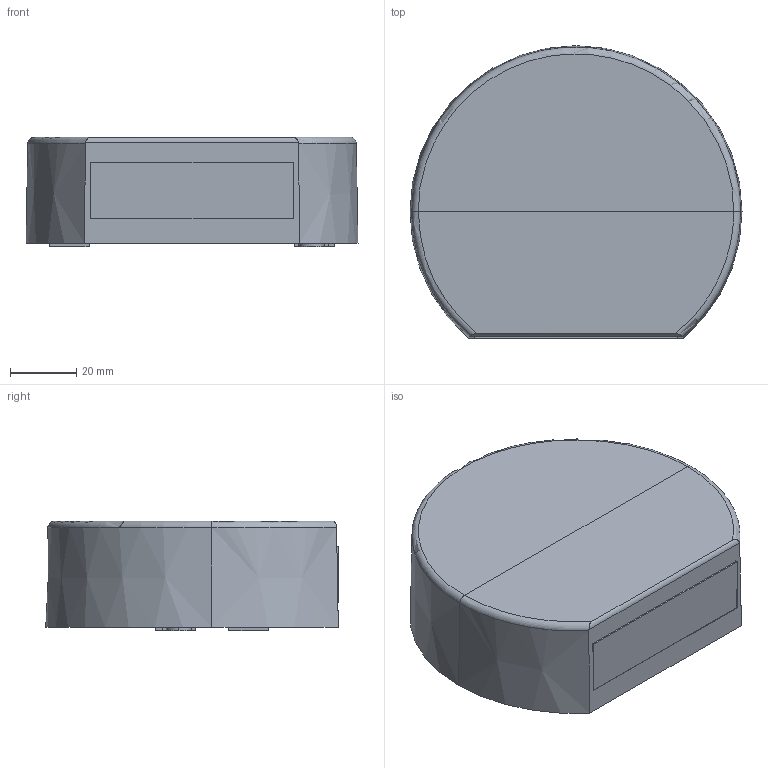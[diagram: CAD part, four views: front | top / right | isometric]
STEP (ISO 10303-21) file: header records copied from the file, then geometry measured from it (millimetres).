
FILE_DESCRIPTION(/* description */ (''),/* implementation_level */ '2;1');
FILE_NAME(/* name */ 'C:\Users\Franco Sartori E\Documents\FARO\DUPLICADO\Modelos\01_Digitalizados\PRIORIZACION 2D\3_PILL\03_Publicación\70826.stp',/* time_stamp */ '2021-01-22T09:40:15+01:00',/* author */ ('Franco Sartori E'),/* organization */ (''),/* preprocessor_version */ 'ST-DEVELOPER v18.1',/* originating_system */ 'AutoCAD Mechanical',/* authorisation */ '');
FILE_SCHEMA (('AUTOMOTIVE_DESIGN { 1 0 10303 214 3 1 1 }'));
Length unit declared in the file: millimetre
Products named in the file (2): Product; 70824_ 70825_ 70826 - Lamp-457763-Export
Assembly tree (1 placements, depth 2):
  Product
    70824_ 70825_ 70826 - Lamp-457763-Export
Bounding box: 100 x 88.13 x 33 mm (x, y, z)
Volume: 3059.1 mm3; surface area: 28196.9 mm2
Topology: 1 solids, 2 shells, 62 faces, 149 edges, 97 vertices
Faces by surface type: plane 39, cylinder 17, torus 3, cone 3
Entity records: 2050 total; most frequent: CARTESIAN_POINT 571, DIRECTION 285, ORIENTED_EDGE 282, EDGE_CURVE 149, LINE 101, VECTOR 101, VERTEX_POINT 97, AXIS2_PLACEMENT_3D 92
